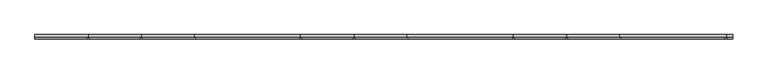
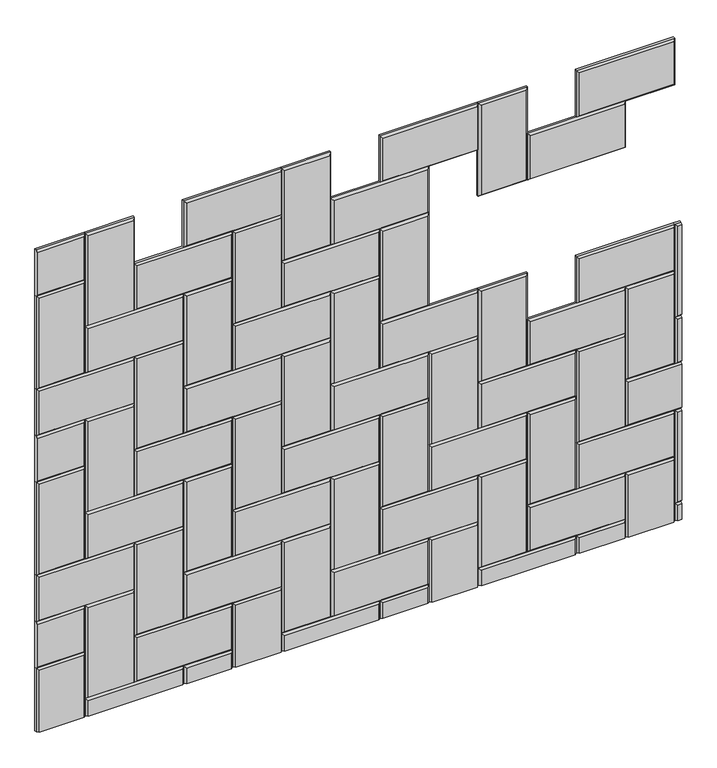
"""IFC4 building model written with IfcOpenShell, lengths in millimetres: proxy geometry, Wall_Wisteria 5.3dm."""

from ifc_helpers import new_model, si_unit, origin, place, context, project, spatial, faceted_brep, source, transform, mapped, element, save


def generic_models_71bcdb27(model_context):
    return source(origin(), model_context, "Body", "Brep", [
        faceted_brep([(6489.4096042, 12.0, 1428.4), (6184.6096042, 12.0, 1428.4), (6184.6096042, 12.0, 1580.8), (6489.4096042, 12.0, 1580.8), (6489.4096042, 6.0, 1428.4), (6489.4096042, 6.0, 1580.8), (6184.6096042, 6.0, 1580.8), (6184.6096042, 6.0, 1428.4), (6190.6096042, 0.0, 1574.8), (6190.6096042, 0.0, 1434.4), (6483.4096042, 0.0, 1434.4), (6483.4096042, 0.0, 1574.8)], [[[0, 1, 2, 3]], [[4, 0, 3, 5]], [[5, 3, 2, 6]], [[6, 2, 1, 7]], [[7, 1, 0, 4]], [[8, 9, 10, 11]], [[4, 5, 11, 10]], [[5, 6, 8, 11]], [[6, 7, 9, 8]], [[7, 4, 10, 9]]]),
        faceted_brep([(6337.0096042, 12.0, 1276.0), (6032.2096042, 12.0, 1276.0), (6032.2096042, 12.0, 1428.4), (6337.0096042, 12.0, 1428.4), (6337.0096042, 6.0, 1276.0), (6337.0096042, 6.0, 1428.4), (6032.2096042, 6.0, 1428.4), (6032.2096042, 6.0, 1276.0), (6038.2096042, 0.0, 1422.4), (6038.2096042, 0.0, 1282.0), (6331.0096042, 0.0, 1282.0), (6331.0096042, 0.0, 1422.4)], [[[0, 1, 2, 3]], [[4, 0, 3, 5]], [[5, 3, 2, 6]], [[6, 2, 1, 7]], [[7, 1, 0, 4]], [[8, 9, 10, 11]], [[4, 5, 11, 10]], [[5, 6, 8, 11]], [[6, 7, 9, 8]], [[7, 4, 10, 9]]]),
        faceted_brep([(5879.8096042, 12.0, 1276.0), (5879.8096042, 12.0, 1580.8), (6032.2096042, 12.0, 1580.8), (6032.2096042, 12.0, 1276.0), (5879.8096042, 6.0, 1276.0), (6032.2096042, 6.0, 1276.0), (6032.2096042, 6.0, 1580.8), (5879.8096042, 6.0, 1580.8), (6026.2096042, 0.0, 1574.8), (5885.8096042, 0.0, 1574.8), (5885.8096042, 0.0, 1282.0), (6026.2096042, 0.0, 1282.0)], [[[0, 1, 2, 3]], [[4, 0, 3, 5]], [[5, 3, 2, 6]], [[6, 2, 1, 7]], [[7, 1, 0, 4]], [[8, 9, 10, 11]], [[4, 5, 11, 10]], [[5, 6, 8, 11]], [[6, 7, 9, 8]], [[7, 4, 10, 9]]]),
        faceted_brep([(5879.8096042, 12.0, 1428.4), (5575.0096042, 12.0, 1428.4), (5575.0096042, 12.0, 1580.8), (5879.8096042, 12.0, 1580.8), (5879.8096042, 6.0, 1428.4), (5879.8096042, 6.0, 1580.8), (5575.0096042, 6.0, 1580.8), (5575.0096042, 6.0, 1428.4), (5581.0096042, 0.0, 1574.8), (5581.0096042, 0.0, 1434.4), (5873.8096042, 0.0, 1434.4), (5873.8096042, 0.0, 1574.8)], [[[0, 1, 2, 3]], [[4, 0, 3, 5]], [[5, 3, 2, 6]], [[6, 2, 1, 7]], [[7, 1, 0, 4]], [[8, 9, 10, 11]], [[4, 5, 11, 10]], [[5, 6, 8, 11]], [[6, 7, 9, 8]], [[7, 4, 10, 9]]]),
        faceted_brep([(5727.4096042, 12.0, 1276.0), (5422.6096042, 12.0, 1276.0), (5422.6096042, 12.0, 1428.4), (5727.4096042, 12.0, 1428.4), (5727.4096042, 6.0, 1276.0), (5727.4096042, 6.0, 1428.4), (5422.6096042, 6.0, 1428.4), (5422.6096042, 6.0, 1276.0), (5428.6096042, 0.0, 1422.4), (5428.6096042, 0.0, 1282.0), (5721.4096042, 0.0, 1282.0), (5721.4096042, 0.0, 1422.4)], [[[0, 1, 2, 3]], [[4, 0, 3, 5]], [[5, 3, 2, 6]], [[6, 2, 1, 7]], [[7, 1, 0, 4]], [[8, 9, 10, 11]], [[4, 5, 11, 10]], [[5, 6, 8, 11]], [[6, 7, 9, 8]], [[7, 4, 10, 9]]]),
        faceted_brep([(4508.2096042, 12.0, 1580.8), (4660.6096042, 12.0, 1580.8), (4660.6096042, 12.0, 1428.4), (4508.2096042, 12.0, 1428.4), (4660.6096042, 6.0, 1428.4), (4660.6096042, 6.0, 1580.8), (4508.2096042, 6.0, 1580.8), (4508.2096042, 6.0, 1428.4), (4508.2096042, 0.0, 1574.8), (4508.2096042, 0.0, 1434.4), (4654.6096042, 0.0, 1434.4), (4654.6096042, 0.0, 1574.8)], [[[0, 1, 2, 3]], [[4, 2, 1, 5]], [[0, 6, 5, 1]], [[7, 3, 2, 4]], [[8, 9, 10, 11]], [[4, 5, 11, 10]], [[6, 8, 11, 5]], [[9, 7, 4, 10]], [[0, 3, 7, 9, 8, 6]]]),
        faceted_brep([(5575.0096042, 12.0, 971.2), (5575.0096042, 12.0, 1276.0), (5727.4096042, 12.0, 1276.0), (5727.4096042, 12.0, 971.2), (5575.0096042, 6.0, 971.2), (5727.4096042, 6.0, 971.2), (5727.4096042, 6.0, 1276.0), (5575.0096042, 6.0, 1276.0), (5721.4096042, 0.0, 1270.0), (5581.0096042, 0.0, 1270.0), (5581.0096042, 0.0, 977.2), (5721.4096042, 0.0, 977.2)], [[[0, 1, 2, 3]], [[4, 0, 3, 5]], [[5, 3, 2, 6]], [[6, 2, 1, 7]], [[7, 1, 0, 4]], [[8, 9, 10, 11]], [[4, 5, 11, 10]], [[5, 6, 8, 11]], [[6, 7, 9, 8]], [[7, 4, 10, 9]]]),
        faceted_brep([(5270.2096042, 12.0, 1276.0), (5270.2096042, 12.0, 1580.8), (5422.6096042, 12.0, 1580.8), (5422.6096042, 12.0, 1276.0), (5270.2096042, 6.0, 1276.0), (5422.6096042, 6.0, 1276.0), (5422.6096042, 6.0, 1580.8), (5270.2096042, 6.0, 1580.8), (5416.6096042, 0.0, 1574.8), (5276.2096042, 0.0, 1574.8), (5276.2096042, 0.0, 1282.0), (5416.6096042, 0.0, 1282.0)], [[[0, 1, 2, 3]], [[4, 0, 3, 5]], [[5, 3, 2, 6]], [[6, 2, 1, 7]], [[7, 1, 0, 4]], [[8, 9, 10, 11]], [[4, 5, 11, 10]], [[5, 6, 8, 11]], [[6, 7, 9, 8]], [[7, 4, 10, 9]]]),
        faceted_brep([(5575.0096042, 12.0, 1123.6), (5270.2096042, 12.0, 1123.6), (5270.2096042, 12.0, 1276.0), (5575.0096042, 12.0, 1276.0), (5575.0096042, 6.0, 1123.6), (5575.0096042, 6.0, 1276.0), (5270.2096042, 6.0, 1276.0), (5270.2096042, 6.0, 1123.6), (5276.2096042, 0.0, 1270.0), (5276.2096042, 0.0, 1129.6), (5569.0096042, 0.0, 1129.6), (5569.0096042, 0.0, 1270.0)], [[[0, 1, 2, 3]], [[4, 0, 3, 5]], [[5, 3, 2, 6]], [[6, 2, 1, 7]], [[7, 1, 0, 4]], [[8, 9, 10, 11]], [[4, 5, 11, 10]], [[5, 6, 8, 11]], [[6, 7, 9, 8]], [[7, 4, 10, 9]]]),
        faceted_brep([(5422.6096042, 12.0, 818.8), (5422.6096042, 12.0, 1123.6), (5575.0096042, 12.0, 1123.6), (5575.0096042, 12.0, 818.8), (5422.6096042, 6.0, 818.8), (5575.0096042, 6.0, 818.8), (5575.0096042, 6.0, 1123.6), (5422.6096042, 6.0, 1123.6), (5569.0096042, 0.0, 1117.6), (5428.6096042, 0.0, 1117.6), (5428.6096042, 0.0, 824.8), (5569.0096042, 0.0, 824.8)], [[[0, 1, 2, 3]], [[4, 0, 3, 5]], [[5, 3, 2, 6]], [[6, 2, 1, 7]], [[7, 1, 0, 4]], [[8, 9, 10, 11]], [[4, 5, 11, 10]], [[5, 6, 8, 11]], [[6, 7, 9, 8]], [[7, 4, 10, 9]]]),
        faceted_brep([(4660.6096042, 12.0, 1276.0), (4660.6096042, 12.0, 1580.8), (4813.0096042, 12.0, 1580.8), (4813.0096042, 12.0, 1276.0), (4660.6096042, 6.0, 1276.0), (4813.0096042, 6.0, 1276.0), (4813.0096042, 6.0, 1580.8), (4660.6096042, 6.0, 1580.8), (4807.0096042, 0.0, 1574.8), (4666.6096042, 0.0, 1574.8), (4666.6096042, 0.0, 1282.0), (4807.0096042, 0.0, 1282.0)], [[[0, 1, 2, 3]], [[4, 0, 3, 5]], [[5, 3, 2, 6]], [[6, 2, 1, 7]], [[7, 1, 0, 4]], [[8, 9, 10, 11]], [[4, 5, 11, 10]], [[5, 6, 8, 11]], [[6, 7, 9, 8]], [[7, 4, 10, 9]]]),
        faceted_brep([(4965.4096042, 12.0, 1123.6), (4660.6096042, 12.0, 1123.6), (4660.6096042, 12.0, 1276.0), (4965.4096042, 12.0, 1276.0), (4965.4096042, 6.0, 1123.6), (4965.4096042, 6.0, 1276.0), (4660.6096042, 6.0, 1276.0), (4660.6096042, 6.0, 1123.6), (4666.6096042, 0.0, 1270.0), (4666.6096042, 0.0, 1129.6), (4959.4096042, 0.0, 1129.6), (4959.4096042, 0.0, 1270.0)], [[[0, 1, 2, 3]], [[4, 0, 3, 5]], [[5, 3, 2, 6]], [[6, 2, 1, 7]], [[7, 1, 0, 4]], [[8, 9, 10, 11]], [[4, 5, 11, 10]], [[5, 6, 8, 11]], [[6, 7, 9, 8]], [[7, 4, 10, 9]]]),
        faceted_brep([(4813.0096042, 12.0, 818.8), (4813.0096042, 12.0, 1123.6), (4965.4096042, 12.0, 1123.6), (4965.4096042, 12.0, 818.8), (4813.0096042, 6.0, 818.8), (4965.4096042, 6.0, 818.8), (4965.4096042, 6.0, 1123.6), (4813.0096042, 6.0, 1123.6), (4959.4096042, 0.0, 1117.6), (4819.0096042, 0.0, 1117.6), (4819.0096042, 0.0, 824.8), (4959.4096042, 0.0, 824.8)], [[[0, 1, 2, 3]], [[4, 0, 3, 5]], [[5, 3, 2, 6]], [[6, 2, 1, 7]], [[7, 1, 0, 4]], [[8, 9, 10, 11]], [[4, 5, 11, 10]], [[5, 6, 8, 11]], [[6, 7, 9, 8]], [[7, 4, 10, 9]]]),
        faceted_brep([(4508.2096042, 12.0, 1123.6), (4508.2096042, 12.0, 1428.4), (4660.6096042, 12.0, 1428.4), (4660.6096042, 12.0, 1123.6), (4508.2096042, 6.0, 1123.6), (4660.6096042, 6.0, 1123.6), (4660.6096042, 6.0, 1428.4), (4508.2096042, 6.0, 1428.4), (4654.6096042, 0.0, 1422.4), (4514.2096042, 0.0, 1422.4), (4514.2096042, 0.0, 1129.6), (4654.6096042, 0.0, 1129.6)], [[[0, 1, 2, 3]], [[4, 0, 3, 5]], [[5, 3, 2, 6]], [[6, 2, 1, 7]], [[8, 9, 10, 11]], [[4, 5, 11, 10]], [[5, 6, 8, 11]], [[6, 7, 9, 8]], [[7, 4, 10, 9]], [[1, 0, 4, 7]]]),
        faceted_brep([(4813.0096042, 12.0, 971.2), (4508.2096042, 12.0, 971.2), (4508.2096042, 12.0, 1123.6), (4813.0096042, 12.0, 1123.6), (4813.0096042, 6.0, 971.2), (4813.0096042, 6.0, 1123.6), (4508.2096042, 6.0, 1123.6), (4508.2096042, 6.0, 971.2), (4514.2096042, 0.0, 1117.6), (4514.2096042, 0.0, 977.2), (4807.0096042, 0.0, 977.2), (4807.0096042, 0.0, 1117.6)], [[[0, 1, 2, 3]], [[4, 0, 3, 5]], [[5, 3, 2, 6]], [[7, 1, 0, 4]], [[8, 9, 10, 11]], [[4, 5, 11, 10]], [[5, 6, 8, 11]], [[6, 7, 9, 8]], [[7, 4, 10, 9]], [[2, 1, 7, 6]]]),
        faceted_brep([(5270.2096042, 12.0, 1428.4), (4965.4096042, 12.0, 1428.4), (4965.4096042, 12.0, 1580.8), (5270.2096042, 12.0, 1580.8), (5270.2096042, 6.0, 1428.4), (5270.2096042, 6.0, 1580.8), (4965.4096042, 6.0, 1580.8), (4965.4096042, 6.0, 1428.4), (4971.4096042, 0.0, 1574.8), (4971.4096042, 0.0, 1434.4), (5264.2096042, 0.0, 1434.4), (5264.2096042, 0.0, 1574.8)], [[[0, 1, 2, 3]], [[4, 0, 3, 5]], [[5, 3, 2, 6]], [[6, 2, 1, 7]], [[7, 1, 0, 4]], [[8, 9, 10, 11]], [[4, 5, 11, 10]], [[5, 6, 8, 11]], [[6, 7, 9, 8]], [[7, 4, 10, 9]]]),
        faceted_brep([(5117.8096042, 12.0, 1123.6), (5117.8096042, 12.0, 1428.4), (5270.2096042, 12.0, 1428.4), (5270.2096042, 12.0, 1123.6), (5117.8096042, 6.0, 1123.6), (5270.2096042, 6.0, 1123.6), (5270.2096042, 6.0, 1428.4), (5117.8096042, 6.0, 1428.4), (5264.2096042, 0.0, 1422.4), (5123.8096042, 0.0, 1422.4), (5123.8096042, 0.0, 1129.6), (5264.2096042, 0.0, 1129.6)], [[[0, 1, 2, 3]], [[4, 0, 3, 5]], [[5, 3, 2, 6]], [[6, 2, 1, 7]], [[7, 1, 0, 4]], [[8, 9, 10, 11]], [[4, 5, 11, 10]], [[5, 6, 8, 11]], [[6, 7, 9, 8]], [[7, 4, 10, 9]]]),
        faceted_brep([(5422.6096042, 12.0, 971.2), (5117.8096042, 12.0, 971.2), (5117.8096042, 12.0, 1123.6), (5422.6096042, 12.0, 1123.6), (5422.6096042, 6.0, 971.2), (5422.6096042, 6.0, 1123.6), (5117.8096042, 6.0, 1123.6), (5117.8096042, 6.0, 971.2), (5123.8096042, 0.0, 1117.6), (5123.8096042, 0.0, 977.2), (5416.6096042, 0.0, 977.2), (5416.6096042, 0.0, 1117.6)], [[[0, 1, 2, 3]], [[4, 0, 3, 5]], [[5, 3, 2, 6]], [[6, 2, 1, 7]], [[7, 1, 0, 4]], [[8, 9, 10, 11]], [[4, 5, 11, 10]], [[5, 6, 8, 11]], [[6, 7, 9, 8]], [[7, 4, 10, 9]]]),
        faceted_brep([(5117.8096042, 12.0, 1276.0), (4813.0096042, 12.0, 1276.0), (4813.0096042, 12.0, 1428.4), (5117.8096042, 12.0, 1428.4), (5117.8096042, 6.0, 1276.0), (5117.8096042, 6.0, 1428.4), (4813.0096042, 6.0, 1428.4), (4813.0096042, 6.0, 1276.0), (4819.0096042, 0.0, 1422.4), (4819.0096042, 0.0, 1282.0), (5111.8096042, 0.0, 1282.0), (5111.8096042, 0.0, 1422.4)], [[[0, 1, 2, 3]], [[4, 0, 3, 5]], [[5, 3, 2, 6]], [[6, 2, 1, 7]], [[7, 1, 0, 4]], [[8, 9, 10, 11]], [[4, 5, 11, 10]], [[5, 6, 8, 11]], [[6, 7, 9, 8]], [[7, 4, 10, 9]]]),
        faceted_brep([(4965.4096042, 12.0, 971.2), (4965.4096042, 12.0, 1276.0), (5117.8096042, 12.0, 1276.0), (5117.8096042, 12.0, 971.2), (4965.4096042, 6.0, 971.2), (5117.8096042, 6.0, 971.2), (5117.8096042, 6.0, 1276.0), (4965.4096042, 6.0, 1276.0), (5111.8096042, 0.0, 1270.0), (4971.4096042, 0.0, 1270.0), (4971.4096042, 0.0, 977.2), (5111.8096042, 0.0, 977.2)], [[[0, 1, 2, 3]], [[4, 0, 3, 5]], [[5, 3, 2, 6]], [[6, 2, 1, 7]], [[7, 1, 0, 4]], [[8, 9, 10, 11]], [[4, 5, 11, 10]], [[5, 6, 8, 11]], [[6, 7, 9, 8]], [[7, 4, 10, 9]]]),
        faceted_brep([(6508.2096042, 12.0, 514.0), (6489.4096042, 12.0, 514.0), (6489.4096042, 12.0, 666.4), (6508.2096042, 12.0, 666.4), (6508.2096042, 6.0, 666.4), (6489.4096042, 6.0, 666.4), (6489.4096042, 6.0, 514.0), (6508.2096042, 6.0, 514.0), (6508.2096042, 0.0, 520.0), (6508.2096042, 0.0, 660.4), (6495.4096042, 0.0, 660.4), (6495.4096042, 0.0, 520.0)], [[[0, 1, 2, 3]], [[4, 3, 2, 5]], [[5, 2, 1, 6]], [[0, 7, 6, 1]], [[8, 9, 10, 11]], [[9, 4, 5, 10]], [[5, 6, 11, 10]], [[7, 8, 11, 6]], [[0, 3, 4, 9, 8, 7]]]),
        faceted_brep([(6508.2096042, 12.0, 56.8), (6489.4096042, 12.0, 56.8), (6489.4096042, 12.0, 361.6), (6508.2096042, 12.0, 361.6), (6508.2096042, 6.0, 56.8), (6489.4096042, 6.0, 56.8), (6508.2096042, 6.0, 361.6), (6489.4096042, 6.0, 361.6), (6508.2096042, 0.0, 62.8), (6508.2096042, 0.0, 355.6), (6495.4096042, 0.0, 355.6), (6495.4096042, 0.0, 62.8)], [[[0, 1, 2, 3]], [[0, 4, 5, 1]], [[6, 3, 2, 7]], [[7, 2, 1, 5]], [[8, 9, 10, 11]], [[4, 8, 11, 5]], [[9, 6, 7, 10]], [[7, 5, 11, 10]], [[0, 3, 6, 9, 8, 4]]]),
        faceted_brep([(6508.2096042, 12.0, 0.0), (6489.4096042, 12.0, 0.0), (6489.4096042, 12.0, 56.8), (6508.2096042, 12.0, 56.8), (6508.2096042, 6.0, 56.8), (6489.4096042, 6.0, 56.8), (6489.4096042, 6.0, 0.0), (6495.4096042, 0.0, 0.0), (6508.2096042, 0.0, 0.0), (6508.2096042, 0.0, 50.8), (6495.4096042, 0.0, 50.8)], [[[0, 1, 2, 3]], [[4, 3, 2, 5]], [[1, 6, 5, 2]], [[7, 8, 9, 10]], [[9, 4, 5, 10]], [[6, 7, 10, 5]], [[7, 6, 1, 0, 8]], [[0, 3, 4, 9, 8]]]),
        faceted_brep([(6337.0096042, 12.0, 514.0), (6337.0096042, 12.0, 818.8), (6489.4096042, 12.0, 818.8), (6489.4096042, 12.0, 514.0), (6337.0096042, 6.0, 514.0), (6489.4096042, 6.0, 514.0), (6489.4096042, 6.0, 818.8), (6337.0096042, 6.0, 818.8), (6483.4096042, 0.0, 812.8), (6343.0096042, 0.0, 812.8), (6343.0096042, 0.0, 520.0), (6483.4096042, 0.0, 520.0)], [[[0, 1, 2, 3]], [[4, 0, 3, 5]], [[5, 3, 2, 6]], [[6, 2, 1, 7]], [[7, 1, 0, 4]], [[8, 9, 10, 11]], [[4, 5, 11, 10]], [[5, 6, 8, 11]], [[6, 7, 9, 8]], [[7, 4, 10, 9]]]),
        faceted_brep([(6508.2096042, 12.0, 361.6), (6337.0096042, 12.0, 361.6), (6337.0096042, 12.0, 514.0), (6508.2096042, 12.0, 514.0), (6508.2096042, 6.0, 514.0), (6337.0096042, 6.0, 514.0), (6337.0096042, 6.0, 361.6), (6508.2096042, 6.0, 361.6), (6508.2096042, 0.0, 367.6), (6508.2096042, 0.0, 508.0), (6343.0096042, 0.0, 508.0), (6343.0096042, 0.0, 367.6)], [[[0, 1, 2, 3]], [[4, 3, 2, 5]], [[5, 2, 1, 6]], [[0, 7, 6, 1]], [[8, 9, 10, 11]], [[9, 4, 5, 10]], [[5, 6, 11, 10]], [[7, 8, 11, 6]], [[0, 3, 4, 9, 8, 7]]]),
        faceted_brep([(6337.0096042, 12.0, 0.0), (6337.0096042, 12.0, 209.2), (6489.4096042, 12.0, 209.2), (6489.4096042, 12.0, 0.0), (6489.4096042, 6.0, 0.0), (6489.4096042, 6.0, 209.2), (6337.0096042, 6.0, 209.2), (6337.0096042, 6.0, 0.0), (6343.0096042, 0.0, 0.0), (6483.4096042, 0.0, 0.0), (6483.4096042, 0.0, 203.2), (6343.0096042, 0.0, 203.2)], [[[0, 1, 2, 3]], [[4, 3, 2, 5]], [[5, 2, 1, 6]], [[0, 7, 6, 1]], [[8, 9, 10, 11]], [[9, 4, 5, 10]], [[5, 6, 11, 10]], [[7, 8, 11, 6]], [[0, 3, 4, 9, 8, 7]]]),
        faceted_brep([(6184.6096042, 12.0, 361.6), (6184.6096042, 12.0, 666.4), (6337.0096042, 12.0, 666.4), (6337.0096042, 12.0, 361.6), (6184.6096042, 6.0, 361.6), (6337.0096042, 6.0, 361.6), (6337.0096042, 6.0, 666.4), (6184.6096042, 6.0, 666.4), (6331.0096042, 0.0, 660.4), (6190.6096042, 0.0, 660.4), (6190.6096042, 0.0, 367.6), (6331.0096042, 0.0, 367.6)], [[[0, 1, 2, 3]], [[4, 0, 3, 5]], [[5, 3, 2, 6]], [[6, 2, 1, 7]], [[7, 1, 0, 4]], [[8, 9, 10, 11]], [[4, 5, 11, 10]], [[5, 6, 8, 11]], [[6, 7, 9, 8]], [[7, 4, 10, 9]]]),
        faceted_brep([(6489.4096042, 12.0, 209.2), (6184.6096042, 12.0, 209.2), (6184.6096042, 12.0, 361.6), (6489.4096042, 12.0, 361.6), (6489.4096042, 6.0, 209.2), (6489.4096042, 6.0, 361.6), (6184.6096042, 6.0, 361.6), (6184.6096042, 6.0, 209.2), (6190.6096042, 0.0, 355.6), (6190.6096042, 0.0, 215.2), (6483.4096042, 0.0, 215.2), (6483.4096042, 0.0, 355.6)], [[[0, 1, 2, 3]], [[4, 0, 3, 5]], [[5, 3, 2, 6]], [[6, 2, 1, 7]], [[7, 1, 0, 4]], [[8, 9, 10, 11]], [[4, 5, 11, 10]], [[5, 6, 8, 11]], [[6, 7, 9, 8]], [[7, 4, 10, 9]]]),
        faceted_brep([(6184.6096042, 12.0, 514.0), (5879.8096042, 12.0, 514.0), (5879.8096042, 12.0, 666.4), (6184.6096042, 12.0, 666.4), (6184.6096042, 6.0, 514.0), (6184.6096042, 6.0, 666.4), (5879.8096042, 6.0, 666.4), (5879.8096042, 6.0, 514.0), (5885.8096042, 0.0, 660.4), (5885.8096042, 0.0, 520.0), (6178.6096042, 0.0, 520.0), (6178.6096042, 0.0, 660.4)], [[[0, 1, 2, 3]], [[4, 0, 3, 5]], [[5, 3, 2, 6]], [[6, 2, 1, 7]], [[7, 1, 0, 4]], [[8, 9, 10, 11]], [[4, 5, 11, 10]], [[5, 6, 8, 11]], [[6, 7, 9, 8]], [[7, 4, 10, 9]]]),
        faceted_brep([(6032.2096042, 12.0, 209.2), (6032.2096042, 12.0, 514.0), (6184.6096042, 12.0, 514.0), (6184.6096042, 12.0, 209.2), (6032.2096042, 6.0, 209.2), (6184.6096042, 6.0, 209.2), (6184.6096042, 6.0, 514.0), (6032.2096042, 6.0, 514.0), (6178.6096042, 0.0, 508.0), (6038.2096042, 0.0, 508.0), (6038.2096042, 0.0, 215.2), (6178.6096042, 0.0, 215.2)], [[[0, 1, 2, 3]], [[4, 0, 3, 5]], [[5, 3, 2, 6]], [[6, 2, 1, 7]], [[7, 1, 0, 4]], [[8, 9, 10, 11]], [[4, 5, 11, 10]], [[5, 6, 8, 11]], [[6, 7, 9, 8]], [[7, 4, 10, 9]]]),
        faceted_brep([(6337.0096042, 12.0, 56.8), (6032.2096042, 12.0, 56.8), (6032.2096042, 12.0, 209.2), (6337.0096042, 12.0, 209.2), (6337.0096042, 6.0, 56.8), (6337.0096042, 6.0, 209.2), (6032.2096042, 6.0, 209.2), (6032.2096042, 6.0, 56.8), (6038.2096042, 0.0, 203.2), (6038.2096042, 0.0, 62.8), (6331.0096042, 0.0, 62.8), (6331.0096042, 0.0, 203.2)], [[[0, 1, 2, 3]], [[4, 0, 3, 5]], [[5, 3, 2, 6]], [[6, 2, 1, 7]], [[7, 1, 0, 4]], [[8, 9, 10, 11]], [[4, 5, 11, 10]], [[5, 6, 8, 11]], [[6, 7, 9, 8]], [[7, 4, 10, 9]]]),
        faceted_brep([(6184.6096042, 12.0, 0.0), (6184.6096042, 12.0, 56.8), (6337.0096042, 12.0, 56.8), (6337.0096042, 12.0, 0.0), (6337.0096042, 6.0, 0.0), (6337.0096042, 6.0, 56.8), (6184.6096042, 6.0, 56.8), (6184.6096042, 6.0, 0.0), (6190.6096042, 0.0, 0.0), (6331.0096042, 0.0, 0.0), (6331.0096042, 0.0, 50.8), (6190.6096042, 0.0, 50.8)], [[[0, 1, 2, 3]], [[4, 3, 2, 5]], [[5, 2, 1, 6]], [[0, 7, 6, 1]], [[8, 9, 10, 11]], [[9, 4, 5, 10]], [[5, 6, 11, 10]], [[7, 8, 11, 6]], [[0, 3, 4, 9, 8, 7]]]),
        faceted_brep([(5879.8096042, 12.0, 56.8), (5879.8096042, 12.0, 361.6), (6032.2096042, 12.0, 361.6), (6032.2096042, 12.0, 56.8), (5879.8096042, 6.0, 56.8), (6032.2096042, 6.0, 56.8), (6032.2096042, 6.0, 361.6), (5879.8096042, 6.0, 361.6), (6026.2096042, 0.0, 355.6), (5885.8096042, 0.0, 355.6), (5885.8096042, 0.0, 62.8), (6026.2096042, 0.0, 62.8)], [[[0, 1, 2, 3]], [[4, 0, 3, 5]], [[5, 3, 2, 6]], [[6, 2, 1, 7]], [[7, 1, 0, 4]], [[8, 9, 10, 11]], [[4, 5, 11, 10]], [[5, 6, 8, 11]], [[6, 7, 9, 8]], [[7, 4, 10, 9]]]),
        faceted_brep([(5879.8096042, 12.0, 0.0), (5879.8096042, 12.0, 56.8), (6184.6096042, 12.0, 56.8), (6184.6096042, 12.0, 0.0), (6184.6096042, 6.0, 0.0), (6184.6096042, 6.0, 56.8), (5879.8096042, 6.0, 56.8), (5879.8096042, 6.0, 0.0), (5885.8096042, 0.0, 0.0), (6178.6096042, 0.0, 0.0), (6178.6096042, 0.0, 50.8), (5885.8096042, 0.0, 50.8)], [[[0, 1, 2, 3]], [[4, 3, 2, 5]], [[5, 2, 1, 6]], [[0, 7, 6, 1]], [[8, 9, 10, 11]], [[9, 4, 5, 10]], [[5, 6, 11, 10]], [[7, 8, 11, 6]], [[0, 3, 4, 9, 8, 7]]]),
        faceted_brep([(5727.4096042, 12.0, 514.0), (5727.4096042, 12.0, 818.8), (5879.8096042, 12.0, 818.8), (5879.8096042, 12.0, 514.0), (5727.4096042, 6.0, 514.0), (5879.8096042, 6.0, 514.0), (5879.8096042, 6.0, 818.8), (5727.4096042, 6.0, 818.8), (5873.8096042, 0.0, 812.8), (5733.4096042, 0.0, 812.8), (5733.4096042, 0.0, 520.0), (5873.8096042, 0.0, 520.0)], [[[0, 1, 2, 3]], [[4, 0, 3, 5]], [[5, 3, 2, 6]], [[6, 2, 1, 7]], [[7, 1, 0, 4]], [[8, 9, 10, 11]], [[4, 5, 11, 10]], [[5, 6, 8, 11]], [[6, 7, 9, 8]], [[7, 4, 10, 9]]]),
        faceted_brep([(6032.2096042, 12.0, 361.6), (5727.4096042, 12.0, 361.6), (5727.4096042, 12.0, 514.0), (6032.2096042, 12.0, 514.0), (6032.2096042, 6.0, 361.6), (6032.2096042, 6.0, 514.0), (5727.4096042, 6.0, 514.0), (5727.4096042, 6.0, 361.6), (5733.4096042, 0.0, 508.0), (5733.4096042, 0.0, 367.6), (6026.2096042, 0.0, 367.6), (6026.2096042, 0.0, 508.0)], [[[0, 1, 2, 3]], [[4, 0, 3, 5]], [[5, 3, 2, 6]], [[6, 2, 1, 7]], [[7, 1, 0, 4]], [[8, 9, 10, 11]], [[4, 5, 11, 10]], [[5, 6, 8, 11]], [[6, 7, 9, 8]], [[7, 4, 10, 9]]]),
        faceted_brep([(6508.2096042, 12.0, 666.4), (6489.4096042, 12.0, 666.4), (6489.4096042, 12.0, 971.2), (6508.2096042, 12.0, 971.2), (6508.2096042, 6.0, 666.4), (6489.4096042, 6.0, 666.4), (6508.2096042, 6.0, 971.2), (6489.4096042, 6.0, 971.2), (6508.2096042, 0.0, 672.4), (6508.2096042, 0.0, 965.2), (6495.4096042, 0.0, 965.2), (6495.4096042, 0.0, 672.4)], [[[0, 1, 2, 3]], [[0, 4, 5, 1]], [[6, 3, 2, 7]], [[7, 2, 1, 5]], [[8, 9, 10, 11]], [[4, 8, 11, 5]], [[9, 6, 7, 10]], [[7, 5, 11, 10]], [[0, 3, 6, 9, 8, 4]]]),
        faceted_brep([(6489.4096042, 12.0, 818.8), (6184.6096042, 12.0, 818.8), (6184.6096042, 12.0, 971.2), (6489.4096042, 12.0, 971.2), (6489.4096042, 6.0, 818.8), (6489.4096042, 6.0, 971.2), (6184.6096042, 6.0, 971.2), (6184.6096042, 6.0, 818.8), (6190.6096042, 0.0, 965.2), (6190.6096042, 0.0, 824.8), (6483.4096042, 0.0, 824.8), (6483.4096042, 0.0, 965.2)], [[[0, 1, 2, 3]], [[4, 0, 3, 5]], [[5, 3, 2, 6]], [[6, 2, 1, 7]], [[7, 1, 0, 4]], [[8, 9, 10, 11]], [[4, 5, 11, 10]], [[5, 6, 8, 11]], [[6, 7, 9, 8]], [[7, 4, 10, 9]]]),
        faceted_brep([(6337.0096042, 12.0, 666.4), (6032.2096042, 12.0, 666.4), (6032.2096042, 12.0, 818.8), (6337.0096042, 12.0, 818.8), (6337.0096042, 6.0, 666.4), (6337.0096042, 6.0, 818.8), (6032.2096042, 6.0, 818.8), (6032.2096042, 6.0, 666.4), (6038.2096042, 0.0, 812.8), (6038.2096042, 0.0, 672.4), (6331.0096042, 0.0, 672.4), (6331.0096042, 0.0, 812.8)], [[[0, 1, 2, 3]], [[4, 0, 3, 5]], [[5, 3, 2, 6]], [[6, 2, 1, 7]], [[7, 1, 0, 4]], [[8, 9, 10, 11]], [[4, 5, 11, 10]], [[5, 6, 8, 11]], [[6, 7, 9, 8]], [[7, 4, 10, 9]]]),
        faceted_brep([(5879.8096042, 12.0, 666.4), (5879.8096042, 12.0, 971.2), (6032.2096042, 12.0, 971.2), (6032.2096042, 12.0, 666.4), (5879.8096042, 6.0, 666.4), (6032.2096042, 6.0, 666.4), (6032.2096042, 6.0, 971.2), (5879.8096042, 6.0, 971.2), (6026.2096042, 0.0, 965.2), (5885.8096042, 0.0, 965.2), (5885.8096042, 0.0, 672.4), (6026.2096042, 0.0, 672.4)], [[[0, 1, 2, 3]], [[4, 0, 3, 5]], [[5, 3, 2, 6]], [[6, 2, 1, 7]], [[7, 1, 0, 4]], [[8, 9, 10, 11]], [[4, 5, 11, 10]], [[5, 6, 8, 11]], [[6, 7, 9, 8]], [[7, 4, 10, 9]]]),
        faceted_brep([(5879.8096042, 12.0, 818.8), (5575.0096042, 12.0, 818.8), (5575.0096042, 12.0, 971.2), (5879.8096042, 12.0, 971.2), (5879.8096042, 6.0, 818.8), (5879.8096042, 6.0, 971.2), (5575.0096042, 6.0, 971.2), (5575.0096042, 6.0, 818.8), (5581.0096042, 0.0, 965.2), (5581.0096042, 0.0, 824.8), (5873.8096042, 0.0, 824.8), (5873.8096042, 0.0, 965.2)], [[[0, 1, 2, 3]], [[4, 0, 3, 5]], [[5, 3, 2, 6]], [[6, 2, 1, 7]], [[7, 1, 0, 4]], [[8, 9, 10, 11]], [[4, 5, 11, 10]], [[5, 6, 8, 11]], [[6, 7, 9, 8]], [[7, 4, 10, 9]]]),
        faceted_brep([(5727.4096042, 12.0, 666.4), (5422.6096042, 12.0, 666.4), (5422.6096042, 12.0, 818.8), (5727.4096042, 12.0, 818.8), (5727.4096042, 6.0, 666.4), (5727.4096042, 6.0, 818.8), (5422.6096042, 6.0, 818.8), (5422.6096042, 6.0, 666.4), (5428.6096042, 0.0, 812.8), (5428.6096042, 0.0, 672.4), (5721.4096042, 0.0, 672.4), (5721.4096042, 0.0, 812.8)], [[[0, 1, 2, 3]], [[4, 0, 3, 5]], [[5, 3, 2, 6]], [[6, 2, 1, 7]], [[7, 1, 0, 4]], [[8, 9, 10, 11]], [[4, 5, 11, 10]], [[5, 6, 8, 11]], [[6, 7, 9, 8]], [[7, 4, 10, 9]]]),
        faceted_brep([(4508.2096042, 12.0, 971.2), (4660.6096042, 12.0, 971.2), (4660.6096042, 12.0, 818.8), (4508.2096042, 12.0, 818.8), (4660.6096042, 6.0, 818.8), (4660.6096042, 6.0, 971.2), (4508.2096042, 6.0, 971.2), (4508.2096042, 6.0, 818.8), (4508.2096042, 0.0, 965.2), (4508.2096042, 0.0, 824.8), (4654.6096042, 0.0, 824.8), (4654.6096042, 0.0, 965.2)], [[[0, 1, 2, 3]], [[4, 2, 1, 5]], [[0, 6, 5, 1]], [[7, 3, 2, 4]], [[8, 9, 10, 11]], [[4, 5, 11, 10]], [[6, 8, 11, 5]], [[9, 7, 4, 10]], [[0, 3, 7, 9, 8, 6]]]),
        faceted_brep([(5727.4096042, 12.0, 0.0), (5727.4096042, 12.0, 209.2), (5879.8096042, 12.0, 209.2), (5879.8096042, 12.0, 0.0), (5879.8096042, 6.0, 0.0), (5879.8096042, 6.0, 209.2), (5727.4096042, 6.0, 209.2), (5727.4096042, 6.0, 0.0), (5733.4096042, 0.0, 0.0), (5873.8096042, 0.0, 0.0), (5873.8096042, 0.0, 203.2), (5733.4096042, 0.0, 203.2)], [[[0, 1, 2, 3]], [[4, 3, 2, 5]], [[5, 2, 1, 6]], [[0, 7, 6, 1]], [[8, 9, 10, 11]], [[9, 4, 5, 10]], [[5, 6, 11, 10]], [[7, 8, 11, 6]], [[0, 3, 4, 9, 8, 7]]]),
        faceted_brep([(5575.0096042, 12.0, 361.6), (5575.0096042, 12.0, 666.4), (5727.4096042, 12.0, 666.4), (5727.4096042, 12.0, 361.6), (5575.0096042, 6.0, 361.6), (5727.4096042, 6.0, 361.6), (5727.4096042, 6.0, 666.4), (5575.0096042, 6.0, 666.4), (5721.4096042, 0.0, 660.4), (5581.0096042, 0.0, 660.4), (5581.0096042, 0.0, 367.6), (5721.4096042, 0.0, 367.6)], [[[0, 1, 2, 3]], [[4, 0, 3, 5]], [[5, 3, 2, 6]], [[6, 2, 1, 7]], [[7, 1, 0, 4]], [[8, 9, 10, 11]], [[4, 5, 11, 10]], [[5, 6, 8, 11]], [[6, 7, 9, 8]], [[7, 4, 10, 9]]]),
        faceted_brep([(5879.8096042, 12.0, 209.2), (5575.0096042, 12.0, 209.2), (5575.0096042, 12.0, 361.6), (5879.8096042, 12.0, 361.6), (5879.8096042, 6.0, 209.2), (5879.8096042, 6.0, 361.6), (5575.0096042, 6.0, 361.6), (5575.0096042, 6.0, 209.2), (5581.0096042, 0.0, 355.6), (5581.0096042, 0.0, 215.2), (5873.8096042, 0.0, 215.2), (5873.8096042, 0.0, 355.6)], [[[0, 1, 2, 3]], [[4, 0, 3, 5]], [[5, 3, 2, 6]], [[6, 2, 1, 7]], [[7, 1, 0, 4]], [[8, 9, 10, 11]], [[4, 5, 11, 10]], [[5, 6, 8, 11]], [[6, 7, 9, 8]], [[7, 4, 10, 9]]]),
        faceted_brep([(5270.2096042, 12.0, 666.4), (5270.2096042, 12.0, 971.2), (5422.6096042, 12.0, 971.2), (5422.6096042, 12.0, 666.4), (5270.2096042, 6.0, 666.4), (5422.6096042, 6.0, 666.4), (5422.6096042, 6.0, 971.2), (5270.2096042, 6.0, 971.2), (5416.6096042, 0.0, 965.2), (5276.2096042, 0.0, 965.2), (5276.2096042, 0.0, 672.4), (5416.6096042, 0.0, 672.4)], [[[0, 1, 2, 3]], [[4, 0, 3, 5]], [[5, 3, 2, 6]], [[6, 2, 1, 7]], [[7, 1, 0, 4]], [[8, 9, 10, 11]], [[4, 5, 11, 10]], [[5, 6, 8, 11]], [[6, 7, 9, 8]], [[7, 4, 10, 9]]]),
        faceted_brep([(5575.0096042, 12.0, 514.0), (5270.2096042, 12.0, 514.0), (5270.2096042, 12.0, 666.4), (5575.0096042, 12.0, 666.4), (5575.0096042, 6.0, 514.0), (5575.0096042, 6.0, 666.4), (5270.2096042, 6.0, 666.4), (5270.2096042, 6.0, 514.0), (5276.2096042, 0.0, 660.4), (5276.2096042, 0.0, 520.0), (5569.0096042, 0.0, 520.0), (5569.0096042, 0.0, 660.4)], [[[0, 1, 2, 3]], [[4, 0, 3, 5]], [[5, 3, 2, 6]], [[6, 2, 1, 7]], [[7, 1, 0, 4]], [[8, 9, 10, 11]], [[4, 5, 11, 10]], [[5, 6, 8, 11]], [[6, 7, 9, 8]], [[7, 4, 10, 9]]]),
        faceted_brep([(5117.8096042, 12.0, 0.0), (5117.8096042, 12.0, 209.2), (5270.2096042, 12.0, 209.2), (5270.2096042, 12.0, 0.0), (5270.2096042, 6.0, 0.0), (5270.2096042, 6.0, 209.2), (5117.8096042, 6.0, 209.2), (5117.8096042, 6.0, 0.0), (5123.8096042, 0.0, 0.0), (5264.2096042, 0.0, 0.0), (5264.2096042, 0.0, 203.2), (5123.8096042, 0.0, 203.2)], [[[0, 1, 2, 3]], [[4, 3, 2, 5]], [[5, 2, 1, 6]], [[0, 7, 6, 1]], [[8, 9, 10, 11]], [[9, 4, 5, 10]], [[5, 6, 11, 10]], [[7, 8, 11, 6]], [[0, 3, 4, 9, 8, 7]]]),
        faceted_brep([(4965.4096042, 12.0, 0.0), (4965.4096042, 12.0, 56.8), (5117.8096042, 12.0, 56.8), (5117.8096042, 12.0, 0.0), (5117.8096042, 6.0, 0.0), (5117.8096042, 6.0, 56.8), (4965.4096042, 6.0, 56.8), (4965.4096042, 6.0, 0.0), (4971.4096042, 0.0, 0.0), (5111.8096042, 0.0, 0.0), (5111.8096042, 0.0, 50.8), (4971.4096042, 0.0, 50.8)], [[[0, 1, 2, 3]], [[4, 3, 2, 5]], [[5, 2, 1, 6]], [[0, 7, 6, 1]], [[8, 9, 10, 11]], [[9, 4, 5, 10]], [[5, 6, 11, 10]], [[7, 8, 11, 6]], [[0, 3, 4, 9, 8, 7]]]),
        faceted_brep([(5422.6096042, 12.0, 209.2), (5422.6096042, 12.0, 514.0), (5575.0096042, 12.0, 514.0), (5575.0096042, 12.0, 209.2), (5422.6096042, 6.0, 209.2), (5575.0096042, 6.0, 209.2), (5575.0096042, 6.0, 514.0), (5422.6096042, 6.0, 514.0), (5569.0096042, 0.0, 508.0), (5428.6096042, 0.0, 508.0), (5428.6096042, 0.0, 215.2), (5569.0096042, 0.0, 215.2)], [[[0, 1, 2, 3]], [[4, 0, 3, 5]], [[5, 3, 2, 6]], [[6, 2, 1, 7]], [[7, 1, 0, 4]], [[8, 9, 10, 11]], [[4, 5, 11, 10]], [[5, 6, 8, 11]], [[6, 7, 9, 8]], [[7, 4, 10, 9]]]),
        faceted_brep([(5727.4096042, 12.0, 56.8), (5422.6096042, 12.0, 56.8), (5422.6096042, 12.0, 209.2), (5727.4096042, 12.0, 209.2), (5727.4096042, 6.0, 56.8), (5727.4096042, 6.0, 209.2), (5422.6096042, 6.0, 209.2), (5422.6096042, 6.0, 56.8), (5428.6096042, 0.0, 203.2), (5428.6096042, 0.0, 62.8), (5721.4096042, 0.0, 62.8), (5721.4096042, 0.0, 203.2)], [[[0, 1, 2, 3]], [[4, 0, 3, 5]], [[5, 3, 2, 6]], [[6, 2, 1, 7]], [[7, 1, 0, 4]], [[8, 9, 10, 11]], [[4, 5, 11, 10]], [[5, 6, 8, 11]], [[6, 7, 9, 8]], [[7, 4, 10, 9]]]),
        faceted_brep([(5575.0096042, 12.0, 0.0), (5575.0096042, 12.0, 56.8), (5727.4096042, 12.0, 56.8), (5727.4096042, 12.0, 0.0), (5727.4096042, 6.0, 0.0), (5727.4096042, 6.0, 56.8), (5575.0096042, 6.0, 56.8), (5575.0096042, 6.0, 0.0), (5581.0096042, 0.0, 0.0), (5721.4096042, 0.0, 0.0), (5721.4096042, 0.0, 50.8), (5581.0096042, 0.0, 50.8)], [[[0, 1, 2, 3]], [[4, 3, 2, 5]], [[5, 2, 1, 6]], [[0, 7, 6, 1]], [[8, 9, 10, 11]], [[9, 4, 5, 10]], [[5, 6, 11, 10]], [[7, 8, 11, 6]], [[0, 3, 4, 9, 8, 7]]]),
        faceted_brep([(5270.2096042, 12.0, 56.8), (5270.2096042, 12.0, 361.6), (5422.6096042, 12.0, 361.6), (5422.6096042, 12.0, 56.8), (5270.2096042, 6.0, 56.8), (5422.6096042, 6.0, 56.8), (5422.6096042, 6.0, 361.6), (5270.2096042, 6.0, 361.6), (5416.6096042, 0.0, 355.6), (5276.2096042, 0.0, 355.6), (5276.2096042, 0.0, 62.8), (5416.6096042, 0.0, 62.8)], [[[0, 1, 2, 3]], [[4, 0, 3, 5]], [[5, 3, 2, 6]], [[6, 2, 1, 7]], [[7, 1, 0, 4]], [[8, 9, 10, 11]], [[4, 5, 11, 10]], [[5, 6, 8, 11]], [[6, 7, 9, 8]], [[7, 4, 10, 9]]]),
        faceted_brep([(5270.2096042, 12.0, 0.0), (5270.2096042, 12.0, 56.8), (5575.0096042, 12.0, 56.8), (5575.0096042, 12.0, 0.0), (5575.0096042, 6.0, 0.0), (5575.0096042, 6.0, 56.8), (5270.2096042, 6.0, 56.8), (5270.2096042, 6.0, 0.0), (5276.2096042, 0.0, 0.0), (5569.0096042, 0.0, 0.0), (5569.0096042, 0.0, 50.8), (5276.2096042, 0.0, 50.8)], [[[0, 1, 2, 3]], [[4, 3, 2, 5]], [[5, 2, 1, 6]], [[0, 7, 6, 1]], [[8, 9, 10, 11]], [[9, 4, 5, 10]], [[5, 6, 11, 10]], [[7, 8, 11, 6]], [[0, 3, 4, 9, 8, 7]]]),
        faceted_brep([(4508.2096042, 12.0, 361.6), (4660.6096042, 12.0, 361.6), (4660.6096042, 12.0, 209.2), (4508.2096042, 12.0, 209.2), (4660.6096042, 6.0, 209.2), (4660.6096042, 6.0, 361.6), (4508.2096042, 6.0, 361.6), (4508.2096042, 6.0, 209.2), (4508.2096042, 0.0, 355.6), (4508.2096042, 0.0, 215.2), (4654.6096042, 0.0, 215.2), (4654.6096042, 0.0, 355.6)], [[[0, 1, 2, 3]], [[4, 2, 1, 5]], [[0, 6, 5, 1]], [[7, 3, 2, 4]], [[8, 9, 10, 11]], [[4, 5, 11, 10]], [[6, 8, 11, 5]], [[9, 7, 4, 10]], [[0, 3, 7, 9, 8, 6]]]),
        faceted_brep([(4508.2096042, 12.0, 0.0), (4508.2096042, 12.0, 209.2), (4660.6096042, 12.0, 209.2), (4660.6096042, 12.0, 0.0), (4660.6096042, 6.0, 0.0), (4660.6096042, 6.0, 209.2), (4508.2096042, 6.0, 209.2), (4514.2096042, 0.0, 0.0), (4654.6096042, 0.0, 0.0), (4654.6096042, 0.0, 203.2), (4514.2096042, 0.0, 203.2), (4508.2096042, 6.0, 0.0)], [[[0, 1, 2, 3]], [[4, 3, 2, 5]], [[5, 2, 1, 6]], [[7, 8, 9, 10]], [[8, 4, 5, 9]], [[5, 6, 10, 9]], [[11, 7, 10, 6]], [[7, 11, 0, 3, 4, 8]], [[1, 0, 11, 6]]]),
        faceted_brep([(4660.6096042, 12.0, 666.4), (4660.6096042, 12.0, 971.2), (4813.0096042, 12.0, 971.2), (4813.0096042, 12.0, 666.4), (4660.6096042, 6.0, 666.4), (4813.0096042, 6.0, 666.4), (4813.0096042, 6.0, 971.2), (4660.6096042, 6.0, 971.2), (4807.0096042, 0.0, 965.2), (4666.6096042, 0.0, 965.2), (4666.6096042, 0.0, 672.4), (4807.0096042, 0.0, 672.4)], [[[0, 1, 2, 3]], [[4, 0, 3, 5]], [[5, 3, 2, 6]], [[6, 2, 1, 7]], [[7, 1, 0, 4]], [[8, 9, 10, 11]], [[4, 5, 11, 10]], [[5, 6, 8, 11]], [[6, 7, 9, 8]], [[7, 4, 10, 9]]]),
        faceted_brep([(4965.4096042, 12.0, 514.0), (4660.6096042, 12.0, 514.0), (4660.6096042, 12.0, 666.4), (4965.4096042, 12.0, 666.4), (4965.4096042, 6.0, 514.0), (4965.4096042, 6.0, 666.4), (4660.6096042, 6.0, 666.4), (4660.6096042, 6.0, 514.0), (4666.6096042, 0.0, 660.4), (4666.6096042, 0.0, 520.0), (4959.4096042, 0.0, 520.0), (4959.4096042, 0.0, 660.4)], [[[0, 1, 2, 3]], [[4, 0, 3, 5]], [[5, 3, 2, 6]], [[6, 2, 1, 7]], [[7, 1, 0, 4]], [[8, 9, 10, 11]], [[4, 5, 11, 10]], [[5, 6, 8, 11]], [[6, 7, 9, 8]], [[7, 4, 10, 9]]]),
        faceted_brep([(4813.0096042, 12.0, 209.2), (4813.0096042, 12.0, 514.0), (4965.4096042, 12.0, 514.0), (4965.4096042, 12.0, 209.2), (4813.0096042, 6.0, 209.2), (4965.4096042, 6.0, 209.2), (4965.4096042, 6.0, 514.0), (4813.0096042, 6.0, 514.0), (4959.4096042, 0.0, 508.0), (4819.0096042, 0.0, 508.0), (4819.0096042, 0.0, 215.2), (4959.4096042, 0.0, 215.2)], [[[0, 1, 2, 3]], [[4, 0, 3, 5]], [[5, 3, 2, 6]], [[6, 2, 1, 7]], [[7, 1, 0, 4]], [[8, 9, 10, 11]], [[4, 5, 11, 10]], [[5, 6, 8, 11]], [[6, 7, 9, 8]], [[7, 4, 10, 9]]]),
        faceted_brep([(5117.8096042, 12.0, 56.8), (4813.0096042, 12.0, 56.8), (4813.0096042, 12.0, 209.2), (5117.8096042, 12.0, 209.2), (5117.8096042, 6.0, 56.8), (5117.8096042, 6.0, 209.2), (4813.0096042, 6.0, 209.2), (4813.0096042, 6.0, 56.8), (4819.0096042, 0.0, 203.2), (4819.0096042, 0.0, 62.8), (5111.8096042, 0.0, 62.8), (5111.8096042, 0.0, 203.2)], [[[0, 1, 2, 3]], [[4, 0, 3, 5]], [[5, 3, 2, 6]], [[6, 2, 1, 7]], [[7, 1, 0, 4]], [[8, 9, 10, 11]], [[4, 5, 11, 10]], [[5, 6, 8, 11]], [[6, 7, 9, 8]], [[7, 4, 10, 9]]]),
        faceted_brep([(4508.2096042, 12.0, 514.0), (4508.2096042, 12.0, 818.8), (4660.6096042, 12.0, 818.8), (4660.6096042, 12.0, 514.0), (4508.2096042, 6.0, 514.0), (4660.6096042, 6.0, 514.0), (4660.6096042, 6.0, 818.8), (4508.2096042, 6.0, 818.8), (4654.6096042, 0.0, 812.8), (4514.2096042, 0.0, 812.8), (4514.2096042, 0.0, 520.0), (4654.6096042, 0.0, 520.0)], [[[0, 1, 2, 3]], [[4, 0, 3, 5]], [[5, 3, 2, 6]], [[6, 2, 1, 7]], [[8, 9, 10, 11]], [[4, 5, 11, 10]], [[5, 6, 8, 11]], [[6, 7, 9, 8]], [[7, 4, 10, 9]], [[1, 0, 4, 7]]]),
        faceted_brep([(4813.0096042, 12.0, 361.6), (4508.2096042, 12.0, 361.6), (4508.2096042, 12.0, 514.0), (4813.0096042, 12.0, 514.0), (4813.0096042, 6.0, 361.6), (4813.0096042, 6.0, 514.0), (4508.2096042, 6.0, 514.0), (4508.2096042, 6.0, 361.6), (4514.2096042, 0.0, 508.0), (4514.2096042, 0.0, 367.6), (4807.0096042, 0.0, 367.6), (4807.0096042, 0.0, 508.0)], [[[0, 1, 2, 3]], [[4, 0, 3, 5]], [[5, 3, 2, 6]], [[7, 1, 0, 4]], [[8, 9, 10, 11]], [[4, 5, 11, 10]], [[5, 6, 8, 11]], [[6, 7, 9, 8]], [[7, 4, 10, 9]], [[2, 1, 7, 6]]]),
        faceted_brep([(4660.6096042, 12.0, 56.8), (4660.6096042, 12.0, 361.6), (4813.0096042, 12.0, 361.6), (4813.0096042, 12.0, 56.8), (4660.6096042, 6.0, 56.8), (4813.0096042, 6.0, 56.8), (4813.0096042, 6.0, 361.6), (4660.6096042, 6.0, 361.6), (4807.0096042, 0.0, 355.6), (4666.6096042, 0.0, 355.6), (4666.6096042, 0.0, 62.8), (4807.0096042, 0.0, 62.8)], [[[0, 1, 2, 3]], [[4, 0, 3, 5]], [[5, 3, 2, 6]], [[6, 2, 1, 7]], [[7, 1, 0, 4]], [[8, 9, 10, 11]], [[4, 5, 11, 10]], [[5, 6, 8, 11]], [[6, 7, 9, 8]], [[7, 4, 10, 9]]]),
        faceted_brep([(4660.6096042, 12.0, 0.0), (4660.6096042, 12.0, 56.8), (4965.4096042, 12.0, 56.8), (4965.4096042, 12.0, 0.0), (4965.4096042, 6.0, 0.0), (4965.4096042, 6.0, 56.8), (4660.6096042, 6.0, 56.8), (4660.6096042, 6.0, 0.0), (4666.6096042, 0.0, 0.0), (4959.4096042, 0.0, 0.0), (4959.4096042, 0.0, 50.8), (4666.6096042, 0.0, 50.8)], [[[0, 1, 2, 3]], [[4, 3, 2, 5]], [[5, 2, 1, 6]], [[0, 7, 6, 1]], [[8, 9, 10, 11]], [[9, 4, 5, 10]], [[5, 6, 11, 10]], [[7, 8, 11, 6]], [[0, 3, 4, 9, 8, 7]]]),
        faceted_brep([(5270.2096042, 12.0, 818.8), (4965.4096042, 12.0, 818.8), (4965.4096042, 12.0, 971.2), (5270.2096042, 12.0, 971.2), (5270.2096042, 6.0, 818.8), (5270.2096042, 6.0, 971.2), (4965.4096042, 6.0, 971.2), (4965.4096042, 6.0, 818.8), (4971.4096042, 0.0, 965.2), (4971.4096042, 0.0, 824.8), (5264.2096042, 0.0, 824.8), (5264.2096042, 0.0, 965.2)], [[[0, 1, 2, 3]], [[4, 0, 3, 5]], [[5, 3, 2, 6]], [[6, 2, 1, 7]], [[7, 1, 0, 4]], [[8, 9, 10, 11]], [[4, 5, 11, 10]], [[5, 6, 8, 11]], [[6, 7, 9, 8]], [[7, 4, 10, 9]]]),
        faceted_brep([(5117.8096042, 12.0, 514.0), (5117.8096042, 12.0, 818.8), (5270.2096042, 12.0, 818.8), (5270.2096042, 12.0, 514.0), (5117.8096042, 6.0, 514.0), (5270.2096042, 6.0, 514.0), (5270.2096042, 6.0, 818.8), (5117.8096042, 6.0, 818.8), (5264.2096042, 0.0, 812.8), (5123.8096042, 0.0, 812.8), (5123.8096042, 0.0, 520.0), (5264.2096042, 0.0, 520.0)], [[[0, 1, 2, 3]], [[4, 0, 3, 5]], [[5, 3, 2, 6]], [[6, 2, 1, 7]], [[7, 1, 0, 4]], [[8, 9, 10, 11]], [[4, 5, 11, 10]], [[5, 6, 8, 11]], [[6, 7, 9, 8]], [[7, 4, 10, 9]]]),
        faceted_brep([(5422.6096042, 12.0, 361.6), (5117.8096042, 12.0, 361.6), (5117.8096042, 12.0, 514.0), (5422.6096042, 12.0, 514.0), (5422.6096042, 6.0, 361.6), (5422.6096042, 6.0, 514.0), (5117.8096042, 6.0, 514.0), (5117.8096042, 6.0, 361.6), (5123.8096042, 0.0, 508.0), (5123.8096042, 0.0, 367.6), (5416.6096042, 0.0, 367.6), (5416.6096042, 0.0, 508.0)], [[[0, 1, 2, 3]], [[4, 0, 3, 5]], [[5, 3, 2, 6]], [[6, 2, 1, 7]], [[7, 1, 0, 4]], [[8, 9, 10, 11]], [[4, 5, 11, 10]], [[5, 6, 8, 11]], [[6, 7, 9, 8]], [[7, 4, 10, 9]]]),
        faceted_brep([(5117.8096042, 12.0, 666.4), (4813.0096042, 12.0, 666.4), (4813.0096042, 12.0, 818.8), (5117.8096042, 12.0, 818.8), (5117.8096042, 6.0, 666.4), (5117.8096042, 6.0, 818.8), (4813.0096042, 6.0, 818.8), (4813.0096042, 6.0, 666.4), (4819.0096042, 0.0, 812.8), (4819.0096042, 0.0, 672.4), (5111.8096042, 0.0, 672.4), (5111.8096042, 0.0, 812.8)], [[[0, 1, 2, 3]], [[4, 0, 3, 5]], [[5, 3, 2, 6]], [[6, 2, 1, 7]], [[7, 1, 0, 4]], [[8, 9, 10, 11]], [[4, 5, 11, 10]], [[5, 6, 8, 11]], [[6, 7, 9, 8]], [[7, 4, 10, 9]]]),
        faceted_brep([(4965.4096042, 12.0, 361.6), (4965.4096042, 12.0, 666.4), (5117.8096042, 12.0, 666.4), (5117.8096042, 12.0, 361.6), (4965.4096042, 6.0, 361.6), (5117.8096042, 6.0, 361.6), (5117.8096042, 6.0, 666.4), (4965.4096042, 6.0, 666.4), (5111.8096042, 0.0, 660.4), (4971.4096042, 0.0, 660.4), (4971.4096042, 0.0, 367.6), (5111.8096042, 0.0, 367.6)], [[[0, 1, 2, 3]], [[4, 0, 3, 5]], [[5, 3, 2, 6]], [[6, 2, 1, 7]], [[7, 1, 0, 4]], [[8, 9, 10, 11]], [[4, 5, 11, 10]], [[5, 6, 8, 11]], [[6, 7, 9, 8]], [[7, 4, 10, 9]]]),
        faceted_brep([(5270.2096042, 12.0, 209.2), (4965.4096042, 12.0, 209.2), (4965.4096042, 12.0, 361.6), (5270.2096042, 12.0, 361.6), (5270.2096042, 6.0, 209.2), (5270.2096042, 6.0, 361.6), (4965.4096042, 6.0, 361.6), (4965.4096042, 6.0, 209.2), (4971.4096042, 0.0, 355.6), (4971.4096042, 0.0, 215.2), (5264.2096042, 0.0, 215.2), (5264.2096042, 0.0, 355.6)], [[[0, 1, 2, 3]], [[4, 0, 3, 5]], [[5, 3, 2, 6]], [[6, 2, 1, 7]], [[7, 1, 0, 4]], [[8, 9, 10, 11]], [[4, 5, 11, 10]], [[5, 6, 8, 11]], [[6, 7, 9, 8]], [[7, 4, 10, 9]]]),
    ])


if __name__ == "__main__":
    model = new_model("IFC4")
    model_context = context("Model", 3, world=origin())
    ifc_project = project(units=[si_unit("LENGTHUNIT", "METRE", prefix="MILLI")], contexts=[model_context])
    site = spatial("IfcSite", under=ifc_project)
    building = spatial("IfcBuilding", under=site)
    placement = place(None, origin())
    generic_models_shape = generic_models_71bcdb27(model_context)
    element("IfcBuildingElementProxy", 1, Name="Wall_Wisteria 5.3dm", ObjectType="Wall_Wisteria 5.3dm", at=placement, inside=building, context=model_context, shape_type="MappedRepresentation", body=[
        mapped(generic_models_shape, transform((0.0, 0.0, 0.0), x_axis=(1.0, 0.0, 0.0), y_axis=(0.0, 1.0, 0.0), z_axis=(0.0, 0.0, 1.0))),
    ])
    save(model, "model.ifc")
